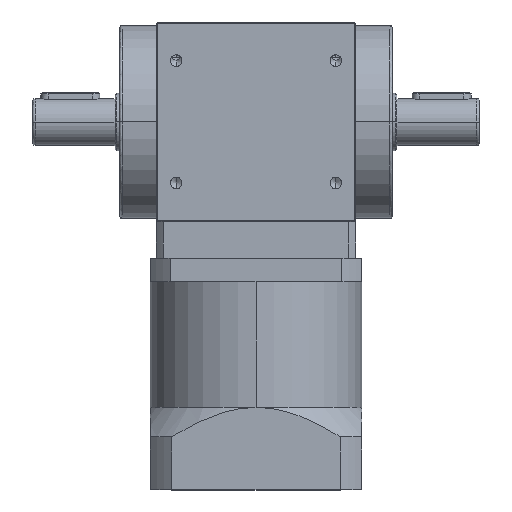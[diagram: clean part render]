
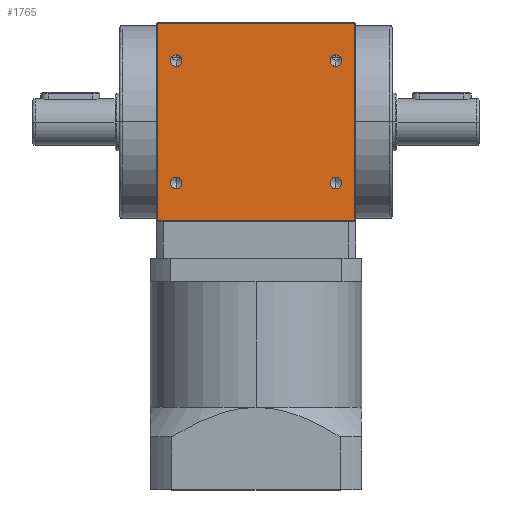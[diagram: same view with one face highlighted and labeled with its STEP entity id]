
A CAD part, top view. The second image highlights one B-rep face of the part: STEP entity #1765.
In plain terms, the highlighted planar face has unit normal (0, 0, 1).
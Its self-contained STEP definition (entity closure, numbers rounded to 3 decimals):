
#52 = EDGE_CURVE ( 'NONE', #4972, #274, #3940, .T. ) ;
#157 = VERTEX_POINT ( 'NONE', #4107 ) ;
#173 = EDGE_CURVE ( 'NONE', #1664, #7559, #2910, .T. ) ;
#229 = DIRECTION ( 'NONE',  ( 1., 0., 0. ) ) ;
#274 = VERTEX_POINT ( 'NONE', #3337 ) ;
#429 = CARTESIAN_POINT ( 'NONE',  ( 34., 26., 42.5 ) ) ;
#479 = VERTEX_POINT ( 'NONE', #2022 ) ;
#904 = CIRCLE ( 'NONE', #9707, 2.5 ) ;
#1283 = AXIS2_PLACEMENT_3D ( 'NONE', #1974, #1990, #2009 ) ;
#1320 = DIRECTION ( 'NONE',  ( 0., -1., 0. ) ) ;
#1597 = DIRECTION ( 'NONE',  ( 0., -1., 0. ) ) ;
#1606 = DIRECTION ( 'NONE',  ( 0., 0., 1. ) ) ;
#1622 = CARTESIAN_POINT ( 'NONE',  ( -34., 26., 42.5 ) ) ;
#1664 = VERTEX_POINT ( 'NONE', #8539 ) ;
#1689 = LINE ( 'NONE', #3067, #9508 ) ;
#1765 = ADVANCED_FACE ( 'NONE', ( #10079, #9912, #9845, #10094, #10145 ), #8254, .F. ) ;
#1810 = AXIS2_PLACEMENT_3D ( 'NONE', #3271, #8619, #4095 ) ;
#1940 = CARTESIAN_POINT ( 'NONE',  ( 34., -26., 42.5 ) ) ;
#1943 = EDGE_LOOP ( 'NONE', ( #6318, #9853 ) ) ;
#1949 = CARTESIAN_POINT ( 'NONE',  ( 0., 42., 42.5 ) ) ;
#1974 = CARTESIAN_POINT ( 'NONE',  ( 34., -26., 42.5 ) ) ;
#1990 = DIRECTION ( 'NONE',  ( 0., 0., 1. ) ) ;
#2009 = DIRECTION ( 'NONE',  ( 0., -1., 0. ) ) ;
#2022 = CARTESIAN_POINT ( 'NONE',  ( 34., -28.5, 42.5 ) ) ;
#2086 = CARTESIAN_POINT ( 'NONE',  ( -34., -26., 42.5 ) ) ;
#2121 = DIRECTION ( 'NONE',  ( 0., 0., 1. ) ) ;
#2159 = DIRECTION ( 'NONE',  ( 0., -1., 0. ) ) ;
#2161 = CIRCLE ( 'NONE', #8146, 2.5 ) ;
#2419 = CARTESIAN_POINT ( 'NONE',  ( 34., -23.5, 42.5 ) ) ;
#2490 = AXIS2_PLACEMENT_3D ( 'NONE', #1622, #1606, #1597 ) ;
#2598 = CIRCLE ( 'NONE', #1283, 2.5 ) ;
#2617 = CARTESIAN_POINT ( 'NONE',  ( 0., -42., 42.5 ) ) ;
#2621 = ORIENTED_EDGE ( 'NONE', *, *, #9659, .F. ) ;
#2630 = DIRECTION ( 'NONE',  ( 1., 0., 0. ) ) ;
#2642 = EDGE_LOOP ( 'NONE', ( #3650, #4610 ) ) ;
#2782 = DIRECTION ( 'NONE',  ( 0., -1., 0. ) ) ;
#2808 = ORIENTED_EDGE ( 'NONE', *, *, #5705, .F. ) ;
#2910 = CIRCLE ( 'NONE', #6999, 2.5 ) ;
#3067 = CARTESIAN_POINT ( 'NONE',  ( -42., 0., 42.5 ) ) ;
#3271 = CARTESIAN_POINT ( 'NONE',  ( -34., 26., 42.5 ) ) ;
#3337 = CARTESIAN_POINT ( 'NONE',  ( -34., -28.5, 42.5 ) ) ;
#3471 = CIRCLE ( 'NONE', #5731, 2.5 ) ;
#3531 = VERTEX_POINT ( 'NONE', #7274 ) ;
#3650 = ORIENTED_EDGE ( 'NONE', *, *, #5177, .F. ) ;
#3844 = DIRECTION ( 'NONE',  ( 0., -1., 0. ) ) ;
#3854 = DIRECTION ( 'NONE',  ( 0., 0., 1. ) ) ;
#3867 = CARTESIAN_POINT ( 'NONE',  ( 34., 26., 42.5 ) ) ;
#3890 = CARTESIAN_POINT ( 'NONE',  ( -34., -23.5, 42.5 ) ) ;
#3905 = DIRECTION ( 'NONE',  ( 0., 1., 0. ) ) ;
#3940 = CIRCLE ( 'NONE', #5194, 2.5 ) ;
#3956 = VECTOR ( 'NONE', #8311, 1000. ) ;
#3975 = LINE ( 'NONE', #7583, #3956 ) ;
#4095 = DIRECTION ( 'NONE',  ( 0., -1., 0. ) ) ;
#4107 = CARTESIAN_POINT ( 'NONE',  ( -42., -42., 42.5 ) ) ;
#4416 = CARTESIAN_POINT ( 'NONE',  ( 34., 23.5, 42.5 ) ) ;
#4484 = VECTOR ( 'NONE', #229, 1000. ) ;
#4610 = ORIENTED_EDGE ( 'NONE', *, *, #8366, .F. ) ;
#4612 = ORIENTED_EDGE ( 'NONE', *, *, #9515, .F. ) ;
#4811 = DIRECTION ( 'NONE',  ( 0., -1., 0. ) ) ;
#4822 = DIRECTION ( 'NONE',  ( 0., 0., 1. ) ) ;
#4834 = CARTESIAN_POINT ( 'NONE',  ( -34., -26., 42.5 ) ) ;
#4972 = VERTEX_POINT ( 'NONE', #3890 ) ;
#5137 = EDGE_LOOP ( 'NONE', ( #2808, #4612 ) ) ;
#5151 = EDGE_CURVE ( 'NONE', #157, #6866, #6234, .T. ) ;
#5177 = EDGE_CURVE ( 'NONE', #3531, #9653, #5432, .T. ) ;
#5194 = AXIS2_PLACEMENT_3D ( 'NONE', #4834, #4822, #4811 ) ;
#5432 = CIRCLE ( 'NONE', #2490, 2.5 ) ;
#5705 = EDGE_CURVE ( 'NONE', #479, #7946, #2598, .T. ) ;
#5731 = AXIS2_PLACEMENT_3D ( 'NONE', #2086, #2121, #2159 ) ;
#6197 = EDGE_CURVE ( 'NONE', #274, #4972, #3471, .T. ) ;
#6234 = LINE ( 'NONE', #2617, #6295 ) ;
#6281 = DIRECTION ( 'NONE',  ( 0., 0., 1. ) ) ;
#6295 = VECTOR ( 'NONE', #2630, 1000. ) ;
#6318 = ORIENTED_EDGE ( 'NONE', *, *, #6197, .F. ) ;
#6623 = CARTESIAN_POINT ( 'NONE',  ( -42., 42., 42.5 ) ) ;
#6675 = CARTESIAN_POINT ( 'NONE',  ( 42., -42., 42.5 ) ) ;
#6708 = EDGE_CURVE ( 'NONE', #7559, #1664, #904, .T. ) ;
#6866 = VERTEX_POINT ( 'NONE', #6675 ) ;
#6999 = AXIS2_PLACEMENT_3D ( 'NONE', #3867, #3854, #3844 ) ;
#7020 = CARTESIAN_POINT ( 'NONE',  ( -34., 28.5, 42.5 ) ) ;
#7274 = CARTESIAN_POINT ( 'NONE',  ( -34., 23.5, 42.5 ) ) ;
#7464 = ORIENTED_EDGE ( 'NONE', *, *, #6708, .F. ) ;
#7465 = CARTESIAN_POINT ( 'NONE',  ( 42., 42., 42.5 ) ) ;
#7538 = DIRECTION ( 'NONE',  ( 0., 0., 1. ) ) ;
#7559 = VERTEX_POINT ( 'NONE', #4416 ) ;
#7583 = CARTESIAN_POINT ( 'NONE',  ( 42., 0., 42.5 ) ) ;
#7710 = EDGE_LOOP ( 'NONE', ( #7464, #8102 ) ) ;
#7731 = EDGE_LOOP ( 'NONE', ( #8502, #9718, #9921, #2621 ) ) ;
#7946 = VERTEX_POINT ( 'NONE', #2419 ) ;
#7997 = DIRECTION ( 'NONE',  ( -1., 0., 0. ) ) ;
#8008 = DIRECTION ( 'NONE',  ( 0., 0., -1. ) ) ;
#8016 = CARTESIAN_POINT ( 'NONE',  ( 0., 0., 42.5 ) ) ;
#8102 = ORIENTED_EDGE ( 'NONE', *, *, #173, .F. ) ;
#8122 = AXIS2_PLACEMENT_3D ( 'NONE', #8016, #8008, #7997 ) ;
#8132 = EDGE_CURVE ( 'NONE', #10122, #6866, #3975, .T. ) ;
#8146 = AXIS2_PLACEMENT_3D ( 'NONE', #1940, #7538, #2782 ) ;
#8254 = PLANE ( 'NONE',  #8122 ) ;
#8311 = DIRECTION ( 'NONE',  ( 0., -1., 0. ) ) ;
#8366 = EDGE_CURVE ( 'NONE', #9653, #3531, #8657, .T. ) ;
#8502 = ORIENTED_EDGE ( 'NONE', *, *, #5151, .T. ) ;
#8539 = CARTESIAN_POINT ( 'NONE',  ( 34., 28.5, 42.5 ) ) ;
#8588 = EDGE_CURVE ( 'NONE', #10005, #10122, #8841, .T. ) ;
#8619 = DIRECTION ( 'NONE',  ( 0., 0., 1. ) ) ;
#8657 = CIRCLE ( 'NONE', #1810, 2.5 ) ;
#8841 = LINE ( 'NONE', #1949, #4484 ) ;
#9508 = VECTOR ( 'NONE', #3905, 1000. ) ;
#9515 = EDGE_CURVE ( 'NONE', #7946, #479, #2161, .T. ) ;
#9653 = VERTEX_POINT ( 'NONE', #7020 ) ;
#9659 = EDGE_CURVE ( 'NONE', #157, #10005, #1689, .T. ) ;
#9707 = AXIS2_PLACEMENT_3D ( 'NONE', #429, #6281, #1320 ) ;
#9718 = ORIENTED_EDGE ( 'NONE', *, *, #8132, .F. ) ;
#9845 = FACE_BOUND ( 'NONE', #1943, .T. ) ;
#9853 = ORIENTED_EDGE ( 'NONE', *, *, #52, .F. ) ;
#9912 = FACE_BOUND ( 'NONE', #5137, .T. ) ;
#9921 = ORIENTED_EDGE ( 'NONE', *, *, #8588, .F. ) ;
#10005 = VERTEX_POINT ( 'NONE', #6623 ) ;
#10079 = FACE_BOUND ( 'NONE', #2642, .T. ) ;
#10094 = FACE_BOUND ( 'NONE', #7710, .T. ) ;
#10122 = VERTEX_POINT ( 'NONE', #7465 ) ;
#10145 = FACE_OUTER_BOUND ( 'NONE', #7731, .T. ) ;
